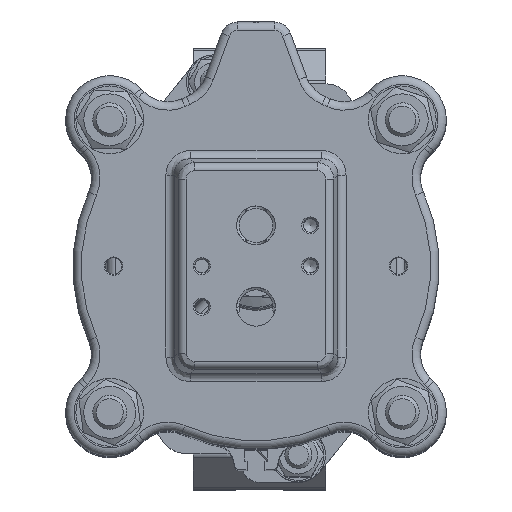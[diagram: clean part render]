
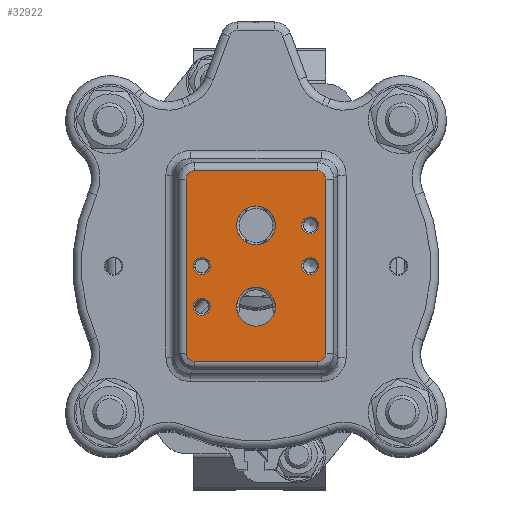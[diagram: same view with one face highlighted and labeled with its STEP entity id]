
A CAD part, top view. The second image highlights one B-rep face of the part: STEP entity #32922.
In plain terms, the highlighted planar face has unit normal (0, 0, 1).
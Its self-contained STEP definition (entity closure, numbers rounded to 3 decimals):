
#54=ELLIPSE('',#35723,2.673,2.5);
#55=ELLIPSE('',#35724,2.673,2.5);
#56=ELLIPSE('',#35725,2.673,2.5);
#57=ELLIPSE('',#35726,2.673,2.5);
#575=FACE_BOUND('',#5697,.T.);
#576=FACE_BOUND('',#5698,.T.);
#577=FACE_BOUND('',#5699,.T.);
#578=FACE_BOUND('',#5700,.T.);
#579=FACE_BOUND('',#5701,.T.);
#580=FACE_BOUND('',#5702,.T.);
#1180=PLANE('',#35722);
#3569=FACE_OUTER_BOUND('',#5696,.T.);
#5696=EDGE_LOOP('',(#24636,#24637,#24638,#24639,#24640,#24641,#24642,#24643));
#5697=EDGE_LOOP('',(#24644,#24645));
#5698=EDGE_LOOP('',(#24646,#24647));
#5699=EDGE_LOOP('',(#24648));
#5700=EDGE_LOOP('',(#24649));
#5701=EDGE_LOOP('',(#24650));
#5702=EDGE_LOOP('',(#24651));
#7976=CIRCLE('',#35592,5.723);
#7977=CIRCLE('',#35593,5.723);
#7979=CIRCLE('',#35596,5.723);
#7980=CIRCLE('',#35597,5.723);
#8071=CIRCLE('',#35721,2.5);
#8072=CIRCLE('',#35727,2.5);
#8073=CIRCLE('',#35728,2.5);
#8074=CIRCLE('',#35729,2.5);
#10030=LINE('',#55989,#11941);
#10031=LINE('',#55993,#11942);
#10032=LINE('',#55997,#11943);
#10033=LINE('',#56000,#11944);
#11941=VECTOR('',#41789,10.);
#11942=VECTOR('',#41792,10.);
#11943=VECTOR('',#41795,10.);
#11944=VECTOR('',#41798,10.);
#14394=VERTEX_POINT('',#55294);
#14395=VERTEX_POINT('',#55296);
#14396=VERTEX_POINT('',#55301);
#14397=VERTEX_POINT('',#55303);
#14498=VERTEX_POINT('',#55981);
#14499=VERTEX_POINT('',#55985);
#14500=VERTEX_POINT('',#55986);
#14501=VERTEX_POINT('',#55988);
#14502=VERTEX_POINT('',#55990);
#14503=VERTEX_POINT('',#55992);
#14504=VERTEX_POINT('',#55994);
#14505=VERTEX_POINT('',#55996);
#14506=VERTEX_POINT('',#55998);
#14507=VERTEX_POINT('',#56001);
#14508=VERTEX_POINT('',#56003);
#14509=VERTEX_POINT('',#56005);
#18081=EDGE_CURVE('',#14395,#14394,#7976,.T.);
#18082=EDGE_CURVE('',#14394,#14395,#7977,.T.);
#18085=EDGE_CURVE('',#14397,#14396,#7979,.T.);
#18086=EDGE_CURVE('',#14396,#14397,#7980,.T.);
#18222=EDGE_CURVE('',#14498,#14498,#8071,.T.);
#18223=EDGE_CURVE('',#14499,#14500,#54,.T.);
#18224=EDGE_CURVE('',#14501,#14499,#10030,.T.);
#18225=EDGE_CURVE('',#14502,#14501,#55,.T.);
#18226=EDGE_CURVE('',#14503,#14502,#10031,.T.);
#18227=EDGE_CURVE('',#14504,#14503,#56,.T.);
#18228=EDGE_CURVE('',#14505,#14504,#10032,.T.);
#18229=EDGE_CURVE('',#14506,#14505,#57,.T.);
#18230=EDGE_CURVE('',#14500,#14506,#10033,.T.);
#18231=EDGE_CURVE('',#14507,#14507,#8072,.T.);
#18232=EDGE_CURVE('',#14508,#14508,#8073,.T.);
#18233=EDGE_CURVE('',#14509,#14509,#8074,.T.);
#24636=ORIENTED_EDGE('',*,*,#18223,.F.);
#24637=ORIENTED_EDGE('',*,*,#18224,.F.);
#24638=ORIENTED_EDGE('',*,*,#18225,.F.);
#24639=ORIENTED_EDGE('',*,*,#18226,.F.);
#24640=ORIENTED_EDGE('',*,*,#18227,.F.);
#24641=ORIENTED_EDGE('',*,*,#18228,.F.);
#24642=ORIENTED_EDGE('',*,*,#18229,.F.);
#24643=ORIENTED_EDGE('',*,*,#18230,.F.);
#24644=ORIENTED_EDGE('',*,*,#18081,.T.);
#24645=ORIENTED_EDGE('',*,*,#18082,.T.);
#24646=ORIENTED_EDGE('',*,*,#18085,.T.);
#24647=ORIENTED_EDGE('',*,*,#18086,.T.);
#24648=ORIENTED_EDGE('',*,*,#18231,.F.);
#24649=ORIENTED_EDGE('',*,*,#18232,.F.);
#24650=ORIENTED_EDGE('',*,*,#18233,.F.);
#24651=ORIENTED_EDGE('',*,*,#18222,.F.);
#32922=ADVANCED_FACE('',(#3569,#575,#576,#577,#578,#579,#580),#1180,.F.);
#35592=AXIS2_PLACEMENT_3D('',#55297,#41497,#41498);
#35593=AXIS2_PLACEMENT_3D('',#55298,#41499,#41500);
#35596=AXIS2_PLACEMENT_3D('',#55304,#41506,#41507);
#35597=AXIS2_PLACEMENT_3D('',#55305,#41508,#41509);
#35721=AXIS2_PLACEMENT_3D('',#55983,#41783,#41784);
#35722=AXIS2_PLACEMENT_3D('',#55984,#41785,#41786);
#35723=AXIS2_PLACEMENT_3D('',#55987,#41787,#41788);
#35724=AXIS2_PLACEMENT_3D('',#55991,#41790,#41791);
#35725=AXIS2_PLACEMENT_3D('',#55995,#41793,#41794);
#35726=AXIS2_PLACEMENT_3D('',#55999,#41796,#41797);
#35727=AXIS2_PLACEMENT_3D('',#56002,#41799,#41800);
#35728=AXIS2_PLACEMENT_3D('',#56004,#41801,#41802);
#35729=AXIS2_PLACEMENT_3D('',#56006,#41803,#41804);
#41497=DIRECTION('center_axis',(0.,0.,
-1.));
#41498=DIRECTION('ref_axis',(0.,1.,0.));
#41499=DIRECTION('center_axis',(0.,0.,
-1.));
#41500=DIRECTION('ref_axis',(0.,1.,0.));
#41506=DIRECTION('center_axis',(0.,0.,
-1.));
#41507=DIRECTION('ref_axis',(0.,1.,0.));
#41508=DIRECTION('center_axis',(0.,0.,
-1.));
#41509=DIRECTION('ref_axis',(0.,1.,0.));
#41783=DIRECTION('center_axis',(0.,0.,
1.));
#41784=DIRECTION('ref_axis',(0.,-1.,0.));
#41785=DIRECTION('center_axis',(0.,0.,
-1.));
#41786=DIRECTION('ref_axis',(0.,-1.,0.));
#41787=DIRECTION('center_axis',(0.,0.,
-1.));
#41788=DIRECTION('ref_axis',(0.707,-0.707,0.));
#41789=DIRECTION('',(0.,-1.,0.));
#41790=DIRECTION('center_axis',(0.,0.,
-1.));
#41791=DIRECTION('ref_axis',(0.707,0.707,0.));
#41792=DIRECTION('',(1.,0.,0.));
#41793=DIRECTION('center_axis',(0.,0.,
-1.));
#41794=DIRECTION('ref_axis',(-0.707,0.707,0.));
#41795=DIRECTION('',(0.,1.,0.));
#41796=DIRECTION('center_axis',(0.,0.,
-1.));
#41797=DIRECTION('ref_axis',(-0.707,-0.707,0.));
#41798=DIRECTION('',(-1.,0.,0.));
#41799=DIRECTION('center_axis',(0.,0.,
1.));
#41800=DIRECTION('ref_axis',(0.,-1.,0.));
#41801=DIRECTION('center_axis',(0.,0.,
1.));
#41802=DIRECTION('ref_axis',(0.,-1.,0.));
#41803=DIRECTION('center_axis',(0.,0.,
1.));
#41804=DIRECTION('ref_axis',(0.,-1.,0.));
#55294=CARTESIAN_POINT('',(0.,-17.723,543.5));
#55296=CARTESIAN_POINT('',(0.,-6.278,543.5));
#55297=CARTESIAN_POINT('Origin',(0.,-12.,
543.5));
#55298=CARTESIAN_POINT('Origin',(0.,-12.,
543.5));
#55301=CARTESIAN_POINT('',(0.,6.277,543.5));
#55303=CARTESIAN_POINT('',(0.,17.722,543.5));
#55304=CARTESIAN_POINT('Origin',(0.,12.,543.5));
#55305=CARTESIAN_POINT('Origin',(0.,12.,543.5));
#55981=CARTESIAN_POINT('',(-16.,-9.5,543.5));
#55983=CARTESIAN_POINT('Origin',(-16.,-12.,543.5));
#55984=CARTESIAN_POINT('Origin',(0.,0.,
543.5));
#55985=CARTESIAN_POINT('',(20.582,-25.667,543.5));
#55986=CARTESIAN_POINT('',(18.167,-28.082,543.5));
#55987=CARTESIAN_POINT('Origin',(17.993,-25.493,543.5));
#55988=CARTESIAN_POINT('',(20.582,25.667,543.5));
#55989=CARTESIAN_POINT('',(20.582,-15.,543.5));
#55990=CARTESIAN_POINT('',(18.167,28.082,543.5));
#55991=CARTESIAN_POINT('Origin',(17.993,25.493,543.5));
#55992=CARTESIAN_POINT('',(-18.167,28.082,543.5));
#55993=CARTESIAN_POINT('',(11.25,28.082,543.5));
#55994=CARTESIAN_POINT('',(-20.582,25.667,543.5));
#55995=CARTESIAN_POINT('Origin',(-17.993,25.493,543.5));
#55996=CARTESIAN_POINT('',(-20.582,-25.667,543.5));
#55997=CARTESIAN_POINT('',(-20.582,15.,543.5));
#55998=CARTESIAN_POINT('',(-18.167,-28.082,543.5));
#55999=CARTESIAN_POINT('Origin',(-17.993,-25.493,543.5));
#56000=CARTESIAN_POINT('',(-11.25,-28.082,543.5));
#56001=CARTESIAN_POINT('',(-16.,2.5,543.5));
#56002=CARTESIAN_POINT('Origin',(-16.,0.,
543.5));
#56003=CARTESIAN_POINT('',(16.,14.5,543.5));
#56004=CARTESIAN_POINT('Origin',(16.,12.,543.5));
#56005=CARTESIAN_POINT('',(16.,2.5,543.5));
#56006=CARTESIAN_POINT('Origin',(16.,0.,
543.5));
